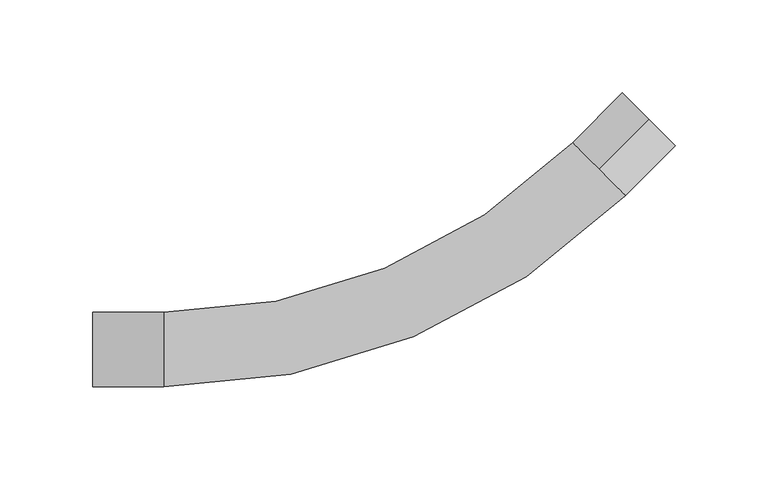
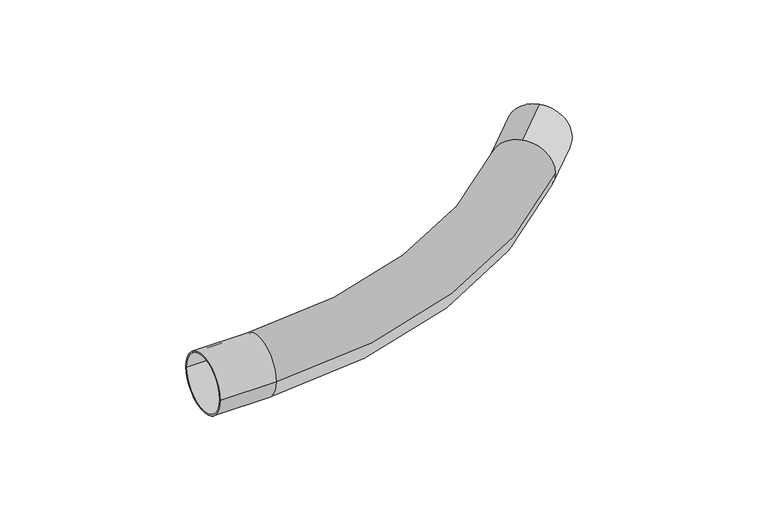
"""IFC4 building model written with IfcOpenShell, lengths in millimetres: cable carrier fitting geometry, КНС_МуфтаГибкаяТрубаТруба_IP65_DKC : Коробка."""

from ifc_helpers import new_model, si_unit, point, frame, origin, place, context, project, spatial, polyline, circle_curve, ellipse_curve, trimmed, source, transform, mapped, element, save
from ifc_brep_helpers import plane_surface, cylinder_surface, revolved_surface, advanced_brep


def cable_carrier_fitting_cfdb1fa8(model_context):
    return source(origin(), model_context, "Body", "AdvancedBrep", [
        advanced_brep(
        [(-175.1222028, -20.0, 0.0), (-175.1222028, 20.0, 0.0), (-175.1222028, -19.0, 0.0), (-175.1222028, 19.0, 0.0), (-137.1222028, -20.0, 0.0), (-137.1222028, 20.0, 0.0), (-137.1222028, -19.0, 0.0), (-137.1222028, 19.0, 0.0), (96.9600394, 96.9600394, 19.0), (96.9600394, 96.9600394, -19.0), (111.1021751, 82.8179038, 0.0), (96.9600394, 96.9600394, 20.0), (82.8179038, 111.1021751, 0.0), (96.9600394, 96.9600394, -20.0), (123.8300971, 123.8300971, -20.0), (123.8300971, 123.8300971, 20.0), (123.8300971, 123.8300971, -19.0), (123.8300971, 123.8300971, 19.0)],
        [
            (0, 1, circle_curve(frame((-175.1222028, 0.0, 0.0), z_axis=(-1.0, 0.0, 0.0), x_axis=(0.0, 1.0, 0.0)), 20.0)),
            (1, 0, circle_curve(frame((-175.1222028, 0.0, 0.0), z_axis=(-1.0, 0.0, 0.0), x_axis=(0.0, 1.0, 0.0)), 20.0)),
            (2, 3, circle_curve(frame((-175.1222028, 0.0, 0.0), z_axis=(1.0, 0.0, 0.0), x_axis=(0.0, 1.0, 0.0)), 19.0)),
            (3, 2, circle_curve(frame((-175.1222028, 0.0, 0.0), z_axis=(1.0, 0.0, 0.0), x_axis=(0.0, 1.0, 0.0)), 19.0)),
            (0, 4),
            (4, 5, circle_curve(frame((-137.1222028, 0.0, 0.0), z_axis=(-1.0, 0.0, 0.0), x_axis=(0.0, 1.0, 0.0)), 20.0)),
            (5, 1),
            (5, 4, circle_curve(frame((-137.1222028, 0.0, 0.0), z_axis=(-1.0, 0.0, 0.0), x_axis=(0.0, 1.0, 0.0)), 20.0)),
            (2, 6),
            (6, 7, circle_curve(frame((-137.1222028, 0.0, 0.0), z_axis=(1.0, 0.0, 0.0), x_axis=(0.0, 1.0, 0.0)), 19.0)),
            (7, 3),
            (7, 6, circle_curve(frame((-137.1222028, 0.0, 0.0), z_axis=(1.0, 0.0, 0.0), x_axis=(0.0, 1.0, 0.0)), 19.0)),
            (8, 9, circle_curve(frame((96.9600394, 96.9600394, 0.0), z_axis=(0.7071067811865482, 0.7071067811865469, 0.0), x_axis=(0.0, 0.0, 1.0)), 19.0)),
            (9, 8, circle_curve(frame((96.9600394, 96.9600394, 0.0), z_axis=(0.7071067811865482, 0.7071067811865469, 0.0), x_axis=(0.0, 0.0, 1.0)), 19.0)),
            (4, 10, circle_curve(frame((-137.1222028, 331.0422816, 0.0), z_axis=(0.0, 0.0, 1.0), x_axis=(0.7071067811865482, -0.7071067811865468, 0.0)), 351.0422816)),
            (10, 11, circle_curve(frame((96.9600394, 96.9600394, 0.0), z_axis=(-0.7071067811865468, -0.7071067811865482, 0.0), x_axis=(0.7071067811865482, -0.7071067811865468, 0.0)), 20.0)),
            (11, 12, circle_curve(frame((96.9600394, 96.9600394, 0.0), z_axis=(-0.7071067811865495, -0.7071067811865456, 0.0), x_axis=(0.7071067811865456, -0.7071067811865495, 0.0)), 20.0)),
            (12, 5, circle_curve(frame((-137.1222028, 331.0422816, 0.0), z_axis=(0.0, 0.0, -1.0), x_axis=(0.7071067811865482, -0.7071067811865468, 0.0)), 311.0422816)),
            (12, 13, circle_curve(frame((96.9600394, 96.9600394, 0.0), z_axis=(-0.7071067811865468, -0.7071067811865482, 0.0), x_axis=(0.7071067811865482, -0.7071067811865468, 0.0)), 20.0)),
            (13, 10, circle_curve(frame((96.9600394, 96.9600394, 0.0), z_axis=(-0.7071067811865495, -0.7071067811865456, 0.0), x_axis=(0.7071067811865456, -0.7071067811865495, 0.0)), 20.0)),
            (14, 15, circle_curve(frame((123.8300971, 123.8300971, 0.0), z_axis=(0.7071067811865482, 0.7071067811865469, 0.0), x_axis=(0.0, 0.0, 1.0)), 20.0)),
            (15, 14, circle_curve(frame((123.8300971, 123.8300971, 0.0), z_axis=(0.7071067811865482, 0.7071067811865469, 0.0), x_axis=(0.0, 0.0, 1.0)), 20.0)),
            (16, 17, circle_curve(frame((123.8300971, 123.8300971, 0.0), z_axis=(-0.7071067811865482, -0.7071067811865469, 0.0), x_axis=(0.0, 0.0, 1.0)), 19.0)),
            (17, 16, circle_curve(frame((123.8300971, 123.8300971, 0.0), z_axis=(-0.7071067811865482, -0.7071067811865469, 0.0), x_axis=(0.0, 0.0, 1.0)), 19.0)),
            (14, 13),
            (11, 15),
            (16, 9),
            (8, 17),
        ],
        [
            plane_surface(frame((-175.1222028, 0.0, 0.0), z_axis=(-1.0, 0.0, 0.0), x_axis=(0.0, 0.0, 1.0))),
            cylinder_surface(frame((-175.1222028, 0.0, 0.0), z_axis=(-1.0, 0.0, 0.0), x_axis=(0.0, 1.0, 0.0)), 20.0),
            revolved_surface(polyline([(-137.1222028, 19.0, 0.0), (-175.1222028, 19.0, 0.0)]), (-175.1222028, 0.0, 0.0), (1.0, 0.0, 0.0)),
            plane_surface(frame((96.9600394, 96.9600394, 0.0), z_axis=(0.7071067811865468, 0.7071067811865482, 0.0), x_axis=(0.0, 0.0, 1.0))),
            plane_surface(frame((-137.1222028, 0.0, 0.0), z_axis=(-1.0, 0.0, 0.0), x_axis=(0.0, 0.0, 1.0))),
            revolved_surface(trimmed(ellipse_curve(frame((96.9600394, 96.9600394, 0.0), z_axis=(0.7071067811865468, 0.7071067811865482, 0.0), x_axis=(0.7071067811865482, -0.7071067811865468, 0.0)), 20.0, 20.0), [point((82.8179038, 111.1021751, 0.0))], [point((111.1021751, 82.8179038, 0.0))], True, "CARTESIAN"), (-137.1222028, 331.0422816, 0.0), (0.0, 0.0, -1.0)),
            revolved_surface(trimmed(ellipse_curve(frame((96.9600394, 96.9600394, 0.0), z_axis=(0.7071067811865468, 0.7071067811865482, 0.0), x_axis=(0.7071067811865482, -0.7071067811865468, 0.0)), 20.0, 20.0), [point((111.1021751, 82.8179038, 0.0))], [point((82.8179038, 111.1021751, 0.0))], True, "CARTESIAN"), (-137.1222028, 331.0422816, 0.0), (0.0, 0.0, -1.0)),
            plane_surface(frame((123.8300971, 123.8300971, 20.0), z_axis=(0.7071067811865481, 0.707106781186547, 0.0), x_axis=(0.707106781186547, -0.7071067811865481, 0.0))),
            cylinder_surface(frame((96.9600394, 96.9600394, 0.0), z_axis=(0.7071067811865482, 0.7071067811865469, 0.0), x_axis=(0.0, 0.0, 1.0)), 20.0),
            revolved_surface(polyline([(96.9600394, 96.9600394, 19.0), (123.83009710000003, 123.83009709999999, 19.0)]), (96.9600394, 96.9600394, 0.0), (-0.7071067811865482, -0.7071067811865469, 0.0)),
        ],
        [
            (0, [[1, 2], [3, 4]]),
            (1, [[-1, 5, 6, 7]]),
            (1, [[-2, -7, 8, -5]]),
            (2, [[-3, 9, 10, 11]]),
            (2, [[-4, -11, 12, -9]]),
            (3, [[13, 14]]),
            (4, [[-10, -12]]),
            (5, [[15, 16, 17, 18, -6]]),
            (6, [[-15, -8, -18, 19, 20]]),
            (7, [[21, 22], [23, 24]]),
            (8, [[-21, 25, -19, -17, 26]]),
            (8, [[-22, -26, -16, -20, -25]]),
            (9, [[-23, 27, -13, 28]]),
            (9, [[-24, -28, -14, -27]]),
        ],
    ),
    ])


if __name__ == "__main__":
    model = new_model("IFC4")
    model_context = context("Model", 3, world=origin())
    ifc_project = project(units=[si_unit("LENGTHUNIT", "METRE", prefix="MILLI")], contexts=[model_context])
    site = spatial("IfcSite", under=ifc_project)
    building = spatial("IfcBuilding", under=site)
    placement = place(None, origin())
    cable_carrier_fitting_shape = cable_carrier_fitting_cfdb1fa8(model_context)
    element("IfcCableCarrierFitting", 1, ObjectType="КНС_МуфтаГибкаяТрубаТруба_IP65_DKC : Коробка", at=placement, inside=building, context=model_context, shape_type="MappedRepresentation", body=[
        mapped(cable_carrier_fitting_shape, transform((0.0, 0.0, 0.0), x_axis=(1.0, 0.0, 0.0), y_axis=(0.0, 1.0, 0.0), z_axis=(0.0, 0.0, 1.0))),
    ])
    save(model, "model.ifc")
